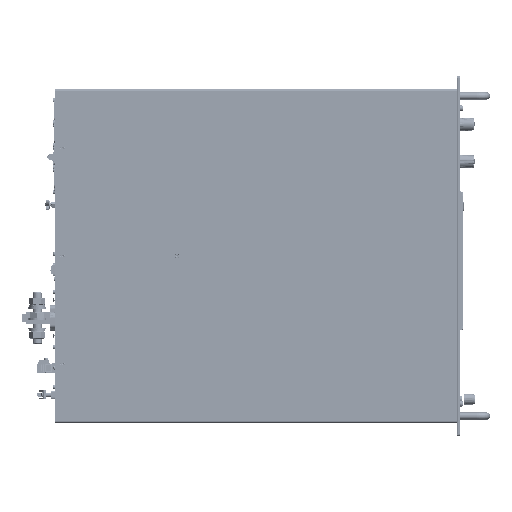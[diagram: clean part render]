
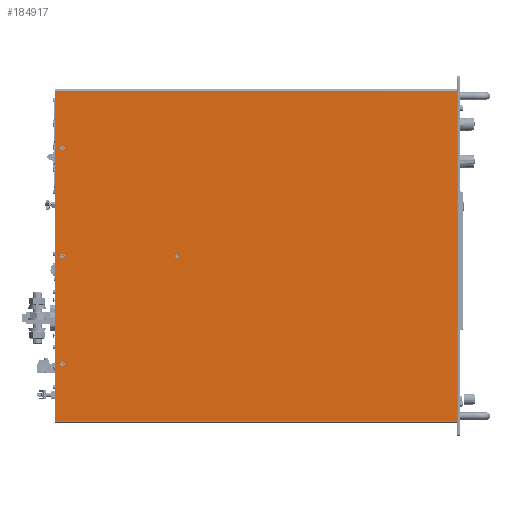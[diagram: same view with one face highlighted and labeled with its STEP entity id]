
A CAD part, left-side view. The second image highlights one B-rep face of the part: STEP entity #184917.
In plain terms, the highlighted planar face has unit normal (-1, 0, 0).
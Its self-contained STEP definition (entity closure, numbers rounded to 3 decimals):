
#2303=FACE_BOUND('',#34549,.T.);
#2304=FACE_BOUND('',#34550,.T.);
#2305=FACE_BOUND('',#34551,.T.);
#2306=FACE_BOUND('',#34552,.T.);
#17156=PLANE('',#197118);
#24032=FACE_OUTER_BOUND('',#34548,.T.);
#34548=EDGE_LOOP('',(#138709,#138710,#138711,#138712,#138713,#138714,#138715,
#138716));
#34549=EDGE_LOOP('',(#138717));
#34550=EDGE_LOOP('',(#138718));
#34551=EDGE_LOOP('',(#138719));
#34552=EDGE_LOOP('',(#138720));
#47899=LINE('',#277397,#65204);
#47974=LINE('',#277602,#65279);
#47980=LINE('',#277618,#65285);
#47983=LINE('',#277624,#65288);
#47986=LINE('',#277630,#65291);
#47987=LINE('',#277633,#65292);
#47988=LINE('',#277635,#65293);
#47989=LINE('',#277636,#65294);
#65204=VECTOR('',#222072,10.);
#65279=VECTOR('',#222265,10.);
#65285=VECTOR('',#222281,10.);
#65288=VECTOR('',#222286,10.);
#65291=VECTOR('',#222291,10.);
#65292=VECTOR('',#222294,10.);
#65293=VECTOR('',#222295,10.);
#65294=VECTOR('',#222296,10.);
#79858=CIRCLE('',#197070,3.1);
#79872=CIRCLE('',#197095,3.1);
#79875=CIRCLE('',#197100,3.1);
#79878=CIRCLE('',#197105,3.1);
#89322=VERTEX_POINT('',#277394);
#89323=VERTEX_POINT('',#277396);
#89369=VERTEX_POINT('',#277514);
#89383=VERTEX_POINT('',#277564);
#89386=VERTEX_POINT('',#277574);
#89389=VERTEX_POINT('',#277584);
#89393=VERTEX_POINT('',#277599);
#89394=VERTEX_POINT('',#277601);
#89401=VERTEX_POINT('',#277622);
#89403=VERTEX_POINT('',#277628);
#89404=VERTEX_POINT('',#277632);
#89405=VERTEX_POINT('',#277634);
#107633=EDGE_CURVE('',#89323,#89322,#47899,.T.);
#107696=EDGE_CURVE('',#89369,#89369,#79858,.T.);
#107721=EDGE_CURVE('',#89383,#89383,#79872,.T.);
#107726=EDGE_CURVE('',#89386,#89386,#79875,.T.);
#107731=EDGE_CURVE('',#89389,#89389,#79878,.T.);
#107739=EDGE_CURVE('',#89393,#89394,#47974,.T.);
#107748=EDGE_CURVE('',#89393,#89323,#47980,.T.);
#107751=EDGE_CURVE('',#89322,#89401,#47983,.T.);
#107754=EDGE_CURVE('',#89403,#89401,#47986,.T.);
#107755=EDGE_CURVE('',#89403,#89404,#47987,.T.);
#107756=EDGE_CURVE('',#89404,#89405,#47988,.T.);
#107757=EDGE_CURVE('',#89405,#89394,#47989,.T.);
#138709=ORIENTED_EDGE('',*,*,#107751,.T.);
#138710=ORIENTED_EDGE('',*,*,#107754,.F.);
#138711=ORIENTED_EDGE('',*,*,#107755,.T.);
#138712=ORIENTED_EDGE('',*,*,#107756,.T.);
#138713=ORIENTED_EDGE('',*,*,#107757,.T.);
#138714=ORIENTED_EDGE('',*,*,#107739,.F.);
#138715=ORIENTED_EDGE('',*,*,#107748,.T.);
#138716=ORIENTED_EDGE('',*,*,#107633,.T.);
#138717=ORIENTED_EDGE('',*,*,#107696,.T.);
#138718=ORIENTED_EDGE('',*,*,#107721,.T.);
#138719=ORIENTED_EDGE('',*,*,#107726,.T.);
#138720=ORIENTED_EDGE('',*,*,#107731,.T.);
#184917=ADVANCED_FACE('',(#24032,#2303,#2304,#2305,#2306),#17156,.T.);
#197070=AXIS2_PLACEMENT_3D('',#277516,#222163,#222164);
#197095=AXIS2_PLACEMENT_3D('',#277566,#222224,#222225);
#197100=AXIS2_PLACEMENT_3D('',#277576,#222236,#222237);
#197105=AXIS2_PLACEMENT_3D('',#277586,#222248,#222249);
#197118=AXIS2_PLACEMENT_3D('',#277631,#222292,#222293);
#222072=DIRECTION('',(0.,0.,1.));
#222163=DIRECTION('center_axis',(1.,0.,0.));
#222164=DIRECTION('ref_axis',(0.,0.,1.));
#222224=DIRECTION('center_axis',(1.,0.,0.));
#222225=DIRECTION('ref_axis',(0.,0.,1.));
#222236=DIRECTION('center_axis',(1.,0.,0.));
#222237=DIRECTION('ref_axis',(0.,0.,1.));
#222248=DIRECTION('center_axis',(1.,0.,0.));
#222249=DIRECTION('ref_axis',(0.,0.,1.));
#222265=DIRECTION('',(0.,0.,1.));
#222281=DIRECTION('',(0.,-1.,0.));
#222286=DIRECTION('',(0.,-1.,0.));
#222291=DIRECTION('',(0.,0.,-1.));
#222292=DIRECTION('center_axis',(-1.,0.,0.));
#222293=DIRECTION('ref_axis',(0.,0.,1.));
#222294=DIRECTION('',(0.,1.,0.));
#222295=DIRECTION('',(0.,0.,1.));
#222296=DIRECTION('',(0.,1.,0.));
#277394=CARTESIAN_POINT('',(96.369,45.066,-163.453));
#277396=CARTESIAN_POINT('',(96.369,45.066,-172.453));
#277397=CARTESIAN_POINT('',(96.369,45.066,-57.203));
#277514=CARTESIAN_POINT('',(96.369,421.566,45.947));
#277516=CARTESIAN_POINT('Origin',(96.369,421.566,49.047));
#277564=CARTESIAN_POINT('',(96.369,575.066,190.947));
#277566=CARTESIAN_POINT('Origin',(96.369,575.066,194.047));
#277574=CARTESIAN_POINT('',(96.369,575.066,45.947));
#277576=CARTESIAN_POINT('Origin',(96.369,575.066,49.047));
#277584=CARTESIAN_POINT('',(96.369,575.066,-99.053));
#277586=CARTESIAN_POINT('Origin',(96.369,575.066,-95.953));
#277599=CARTESIAN_POINT('',(96.369,585.066,-172.453));
#277601=CARTESIAN_POINT('',(96.369,585.066,270.547));
#277602=CARTESIAN_POINT('',(96.369,585.066,-174.953));
#277618=CARTESIAN_POINT('',(96.369,449.566,-172.453));
#277622=CARTESIAN_POINT('',(96.369,43.066,-163.453));
#277624=CARTESIAN_POINT('',(96.369,178.566,-163.453));
#277628=CARTESIAN_POINT('',(96.369,43.066,261.547));
#277630=CARTESIAN_POINT('',(96.369,43.066,273.047));
#277631=CARTESIAN_POINT('Origin',(96.369,314.066,49.047));
#277632=CARTESIAN_POINT('',(96.369,45.066,261.547));
#277633=CARTESIAN_POINT('',(96.369,179.566,261.547));
#277634=CARTESIAN_POINT('',(96.369,45.066,270.547));
#277635=CARTESIAN_POINT('',(96.369,45.066,161.047));
#277636=CARTESIAN_POINT('',(96.369,179.566,270.547));
